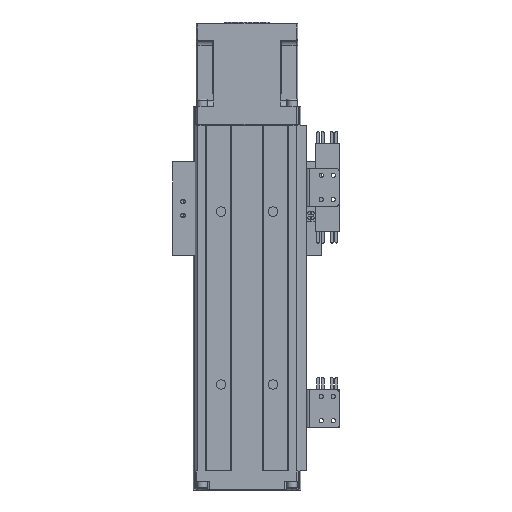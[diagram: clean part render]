
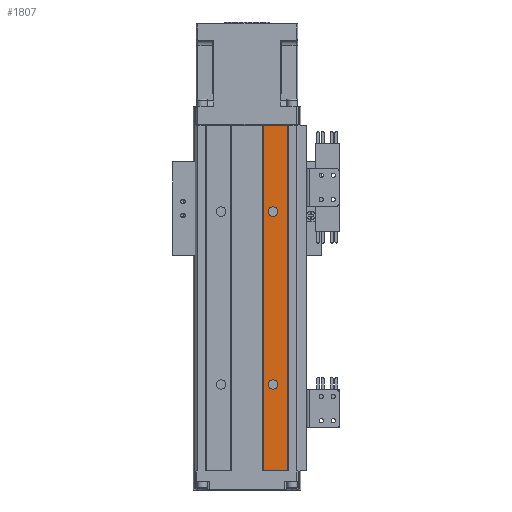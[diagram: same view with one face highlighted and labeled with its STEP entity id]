
A CAD part, front view. The second image highlights one B-rep face of the part: STEP entity #1807.
In plain terms, the highlighted planar face has unit normal (0, -1, 0).
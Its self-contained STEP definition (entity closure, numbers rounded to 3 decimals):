
#603 = AXIS2_PLACEMENT_3D ( 'NONE', #32245, #44803, #38943 ) ;
#1009 = CARTESIAN_POINT ( 'NONE',  ( 47.335, 0.898, 47.25 ) ) ;
#1807 = ADVANCED_FACE ( 'NONE', ( #20379, #2127, #4055 ), #42525, .F. ) ;
#2127 = FACE_BOUND ( 'NONE', #40928, .T. ) ;
#2265 = EDGE_LOOP ( 'NONE', ( #30586, #76461 ) ) ;
#2672 = VECTOR ( 'NONE', #43294, 1000. ) ;
#3297 = EDGE_CURVE ( 'NONE', #49709, #35824, #66067, .T. ) ;
#4055 = FACE_OUTER_BOUND ( 'NONE', #61646, .T. ) ;
#4295 = AXIS2_PLACEMENT_3D ( 'NONE', #13407, #12874, #13138 ) ;
#5053 = VECTOR ( 'NONE', #68800, 1000. ) ;
#6345 = VERTEX_POINT ( 'NONE', #12050 ) ;
#6845 = ORIENTED_EDGE ( 'NONE', *, *, #63586, .T. ) ;
#12013 = CARTESIAN_POINT ( 'NONE',  ( 55.835, 0.898, 100. ) ) ;
#12050 = CARTESIAN_POINT ( 'NONE',  ( 55.835, 0.898, -100. ) ) ;
#12874 = DIRECTION ( 'NONE',  ( 0., 1., 0. ) ) ;
#13138 = DIRECTION ( 'NONE',  ( 0., 0., 1. ) ) ;
#13176 = LINE ( 'NONE', #12013, #2672 ) ;
#13407 = CARTESIAN_POINT ( 'NONE',  ( 47.335, 0.898, -50. ) ) ;
#13944 = DIRECTION ( 'NONE',  ( 1., 0., 0. ) ) ;
#14124 = EDGE_CURVE ( 'NONE', #57297, #6345, #13176, .T. ) ;
#14214 = CARTESIAN_POINT ( 'NONE',  ( 55.835, 0.898, 100. ) ) ;
#14766 = CIRCLE ( 'NONE', #48303, 2.75 ) ;
#14874 = VERTEX_POINT ( 'NONE', #61510 ) ;
#15907 = DIRECTION ( 'NONE',  ( 0., 0., 1. ) ) ;
#19135 = DIRECTION ( 'NONE',  ( 1., 0., 0. ) ) ;
#20379 = FACE_BOUND ( 'NONE', #2265, .T. ) ;
#21363 = EDGE_CURVE ( 'NONE', #35824, #49709, #14766, .T. ) ;
#21382 = LINE ( 'NONE', #50146, #5053 ) ;
#26124 = ORIENTED_EDGE ( 'NONE', *, *, #33227, .T. ) ;
#29003 = DIRECTION ( 'NONE',  ( 0., 0., 1. ) ) ;
#30586 = ORIENTED_EDGE ( 'NONE', *, *, #3297, .T. ) ;
#31100 = CARTESIAN_POINT ( 'NONE',  ( 55.835, 0.898, -100. ) ) ;
#32245 = CARTESIAN_POINT ( 'NONE',  ( 47.335, 0.898, 50. ) ) ;
#33227 = EDGE_CURVE ( 'NONE', #14874, #48054, #21382, .T. ) ;
#35299 = DIRECTION ( 'NONE',  ( 0., 1., 0. ) ) ;
#35824 = VERTEX_POINT ( 'NONE', #47743 ) ;
#36810 = ORIENTED_EDGE ( 'NONE', *, *, #49327, .T. ) ;
#38943 = DIRECTION ( 'NONE',  ( 0., 0., 1. ) ) ;
#40928 = EDGE_LOOP ( 'NONE', ( #6845, #59676 ) ) ;
#41264 = EDGE_CURVE ( 'NONE', #54034, #48189, #46533, .T. ) ;
#41573 = EDGE_CURVE ( 'NONE', #14874, #57297, #49055, .T. ) ;
#42525 = PLANE ( 'NONE',  #68115 ) ;
#43294 = DIRECTION ( 'NONE',  ( 0., 0., -1. ) ) ;
#44803 = DIRECTION ( 'NONE',  ( 0., 1., 0. ) ) ;
#46533 = CIRCLE ( 'NONE', #61068, 2.75 ) ;
#46864 = CARTESIAN_POINT ( 'NONE',  ( 47.335, 0.898, 50. ) ) ;
#47643 = CARTESIAN_POINT ( 'NONE',  ( 47.335, 0.898, -47.25 ) ) ;
#47743 = CARTESIAN_POINT ( 'NONE',  ( 47.335, 0.898, -52.75 ) ) ;
#48054 = VERTEX_POINT ( 'NONE', #52902 ) ;
#48189 = VERTEX_POINT ( 'NONE', #55288 ) ;
#48303 = AXIS2_PLACEMENT_3D ( 'NONE', #65494, #54026, #29003 ) ;
#49055 = LINE ( 'NONE', #14214, #56691 ) ;
#49327 = EDGE_CURVE ( 'NONE', #48054, #6345, #51391, .T. ) ;
#49709 = VERTEX_POINT ( 'NONE', #47643 ) ;
#50146 = CARTESIAN_POINT ( 'NONE',  ( 41.835, 0.898, 100. ) ) ;
#51391 = LINE ( 'NONE', #31100, #79019 ) ;
#52902 = CARTESIAN_POINT ( 'NONE',  ( 41.835, 0.898, -100. ) ) ;
#52989 = ORIENTED_EDGE ( 'NONE', *, *, #41573, .F. ) ;
#52991 = DIRECTION ( 'NONE',  ( 0., 1., 0. ) ) ;
#54026 = DIRECTION ( 'NONE',  ( 0., 1., 0. ) ) ;
#54034 = VERTEX_POINT ( 'NONE', #1009 ) ;
#55288 = CARTESIAN_POINT ( 'NONE',  ( 47.335, 0.898, 52.75 ) ) ;
#56691 = VECTOR ( 'NONE', #13944, 1000. ) ;
#57297 = VERTEX_POINT ( 'NONE', #66672 ) ;
#57417 = CIRCLE ( 'NONE', #603, 2.75 ) ;
#59676 = ORIENTED_EDGE ( 'NONE', *, *, #41264, .T. ) ;
#61068 = AXIS2_PLACEMENT_3D ( 'NONE', #46864, #52991, #15907 ) ;
#61510 = CARTESIAN_POINT ( 'NONE',  ( 41.835, 0.898, 100. ) ) ;
#61646 = EDGE_LOOP ( 'NONE', ( #36810, #63363, #52989, #26124 ) ) ;
#63363 = ORIENTED_EDGE ( 'NONE', *, *, #14124, .F. ) ;
#63586 = EDGE_CURVE ( 'NONE', #48189, #54034, #57417, .T. ) ;
#65494 = CARTESIAN_POINT ( 'NONE',  ( 47.335, 0.898, -50. ) ) ;
#66067 = CIRCLE ( 'NONE', #4295, 2.75 ) ;
#66186 = DIRECTION ( 'NONE',  ( 0., 0., 1. ) ) ;
#66672 = CARTESIAN_POINT ( 'NONE',  ( 55.835, 0.898, 100. ) ) ;
#68115 = AXIS2_PLACEMENT_3D ( 'NONE', #77843, #35299, #66186 ) ;
#68800 = DIRECTION ( 'NONE',  ( 0., 0., -1. ) ) ;
#76461 = ORIENTED_EDGE ( 'NONE', *, *, #21363, .T. ) ;
#77843 = CARTESIAN_POINT ( 'NONE',  ( 55.835, 0.898, 100. ) ) ;
#79019 = VECTOR ( 'NONE', #19135, 1000. ) ;
